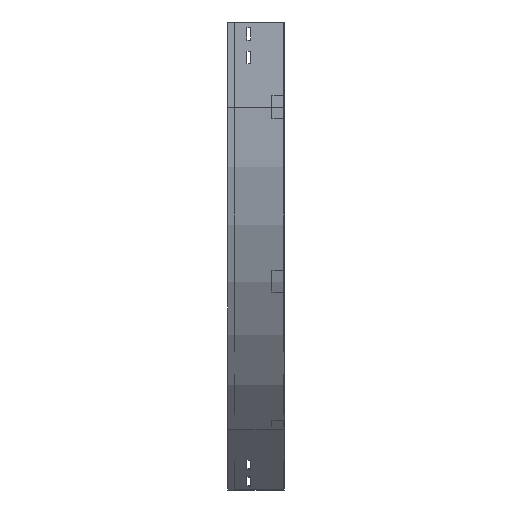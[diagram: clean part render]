
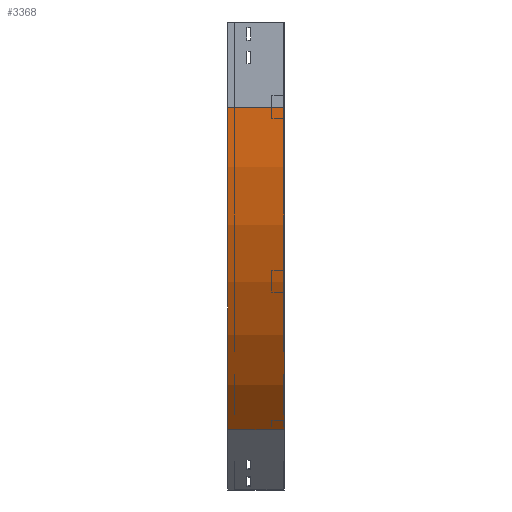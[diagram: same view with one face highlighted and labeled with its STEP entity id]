
A CAD part, left-side view. The second image highlights one B-rep face of the part: STEP entity #3368.
In plain terms, the highlighted cylindrical face has radius 800 mm (diameter 1600 mm), a partial arc.
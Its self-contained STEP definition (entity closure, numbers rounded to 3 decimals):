
#52 = CYLINDRICAL_SURFACE ( 'NONE', #1511, 800. ) ;
#384 = DIRECTION ( 'NONE',  ( 0., 0., -1. ) ) ;
#456 = AXIS2_PLACEMENT_3D ( 'NONE', #1067, #3159, #3441 ) ;
#487 = CARTESIAN_POINT ( 'NONE',  ( 0., 0., -150. ) ) ;
#647 = FACE_OUTER_BOUND ( 'NONE', #2200, .T. ) ;
#694 = EDGE_CURVE ( 'NONE', #2117, #2937, #2463, .T. ) ;
#960 = ORIENTED_EDGE ( 'NONE', *, *, #694, .T. ) ;
#1009 = ORIENTED_EDGE ( 'NONE', *, *, #2521, .F. ) ;
#1034 = CARTESIAN_POINT ( 'NONE',  ( 234.315, 0., -715.685 ) ) ;
#1067 = CARTESIAN_POINT ( 'NONE',  ( 800., 0., -150. ) ) ;
#1190 = CARTESIAN_POINT ( 'NONE',  ( 0., 0., -150. ) ) ;
#1511 = AXIS2_PLACEMENT_3D ( 'NONE', #1847, #2156, #384 ) ;
#1523 = CARTESIAN_POINT ( 'NONE',  ( 800., 100., -150. ) ) ;
#1565 = DIRECTION ( 'NONE',  ( 0., -1., 0. ) ) ;
#1574 = CARTESIAN_POINT ( 'NONE',  ( 234.315, 0., -715.685 ) ) ;
#1612 = VERTEX_POINT ( 'NONE', #487 ) ;
#1646 = VECTOR ( 'NONE', #1565, 1000. ) ;
#1823 = DIRECTION ( 'NONE',  ( 0., -1., 0. ) ) ;
#1847 = CARTESIAN_POINT ( 'NONE',  ( 800., 0., -150. ) ) ;
#1907 = ORIENTED_EDGE ( 'NONE', *, *, #2224, .T. ) ;
#1987 = ORIENTED_EDGE ( 'NONE', *, *, #3738, .F. ) ;
#2111 = AXIS2_PLACEMENT_3D ( 'NONE', #1523, #1823, #2710 ) ;
#2117 = VERTEX_POINT ( 'NONE', #3392 ) ;
#2129 = CIRCLE ( 'NONE', #456, 800. ) ;
#2156 = DIRECTION ( 'NONE',  ( 0., -1., 0. ) ) ;
#2163 = VERTEX_POINT ( 'NONE', #2623 ) ;
#2184 = DIRECTION ( 'NONE',  ( 0., -1., 0. ) ) ;
#2200 = EDGE_LOOP ( 'NONE', ( #1009, #1987, #1907, #960 ) ) ;
#2224 = EDGE_CURVE ( 'NONE', #2163, #2117, #3449, .T. ) ;
#2232 = VECTOR ( 'NONE', #2184, 1000. ) ;
#2463 = LINE ( 'NONE', #1574, #2232 ) ;
#2521 = EDGE_CURVE ( 'NONE', #1612, #2937, #2129, .T. ) ;
#2623 = CARTESIAN_POINT ( 'NONE',  ( 0., 100., -150. ) ) ;
#2710 = DIRECTION ( 'NONE',  ( -1., 0., 0. ) ) ;
#2937 = VERTEX_POINT ( 'NONE', #1034 ) ;
#3159 = DIRECTION ( 'NONE',  ( 0., -1., 0. ) ) ;
#3338 = LINE ( 'NONE', #1190, #1646 ) ;
#3368 = ADVANCED_FACE ( 'NONE', ( #647 ), #52, .T. ) ;
#3392 = CARTESIAN_POINT ( 'NONE',  ( 234.315, 100., -715.685 ) ) ;
#3441 = DIRECTION ( 'NONE',  ( -1., 0., 0. ) ) ;
#3449 = CIRCLE ( 'NONE', #2111, 800. ) ;
#3738 = EDGE_CURVE ( 'NONE', #2163, #1612, #3338, .T. ) ;
